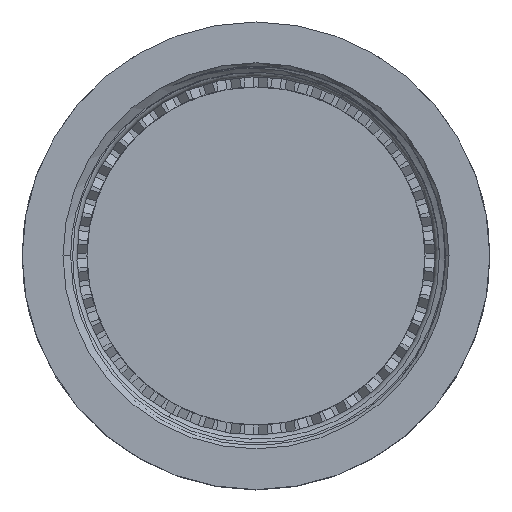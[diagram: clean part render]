
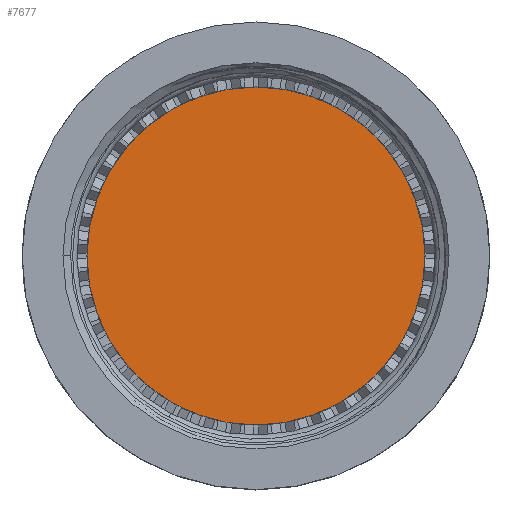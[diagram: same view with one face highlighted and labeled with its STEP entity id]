
A CAD part, top view. The second image highlights one B-rep face of the part: STEP entity #7677.
In plain terms, the highlighted planar face has unit normal (0, 0, 1).
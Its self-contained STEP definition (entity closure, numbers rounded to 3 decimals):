
#1212 = CARTESIAN_POINT ( 'NONE',  ( 0., 0., -1.884 ) ) ;
#1363 = AXIS2_PLACEMENT_3D ( 'NONE', #1212, #3383, #3231 ) ;
#1381 = AXIS2_PLACEMENT_3D ( 'NONE', #6430, #5817, #6471 ) ;
#2312 = ORIENTED_EDGE ( 'NONE', *, *, #8337, .T. ) ;
#2412 = ORIENTED_EDGE ( 'NONE', *, *, #5226, .T. ) ;
#2512 = VERTEX_POINT ( 'NONE', #3633 ) ;
#3028 = DIRECTION ( 'NONE',  ( 0., 0., -1. ) ) ;
#3231 = DIRECTION ( 'NONE',  ( -1., 0., 0. ) ) ;
#3383 = DIRECTION ( 'NONE',  ( 0., 0., 1. ) ) ;
#3619 = EDGE_LOOP ( 'NONE', ( #2412, #2312 ) ) ;
#3633 = CARTESIAN_POINT ( 'NONE',  ( 15.1, 0., -1.884 ) ) ;
#3830 = AXIS2_PLACEMENT_3D ( 'NONE', #7390, #3028, #5160 ) ;
#4248 = CARTESIAN_POINT ( 'NONE',  ( -15.1, 0., -1.884 ) ) ;
#4397 = CIRCLE ( 'NONE', #1363, 15.1 ) ;
#5160 = DIRECTION ( 'NONE',  ( -1., 0., 0. ) ) ;
#5226 = EDGE_CURVE ( 'NONE', #2512, #6793, #4397, .T. ) ;
#5817 = DIRECTION ( 'NONE',  ( 0., 0., 1. ) ) ;
#6430 = CARTESIAN_POINT ( 'NONE',  ( 0., 0., -1.884 ) ) ;
#6471 = DIRECTION ( 'NONE',  ( -1., 0., 0. ) ) ;
#6793 = VERTEX_POINT ( 'NONE', #4248 ) ;
#7390 = CARTESIAN_POINT ( 'NONE',  ( 0., 0., -1.884 ) ) ;
#7677 = ADVANCED_FACE ( 'NONE', ( #8788 ), #7974, .F. ) ;
#7974 = PLANE ( 'NONE',  #3830 ) ;
#8337 = EDGE_CURVE ( 'NONE', #6793, #2512, #9153, .T. ) ;
#8788 = FACE_OUTER_BOUND ( 'NONE', #3619, .T. ) ;
#9153 = CIRCLE ( 'NONE', #1381, 15.1 ) ;
